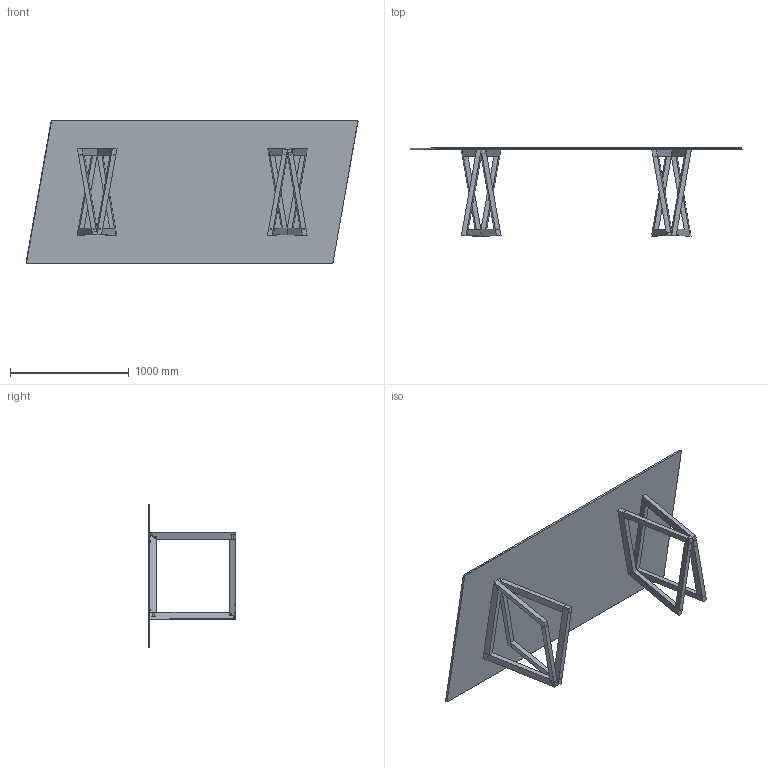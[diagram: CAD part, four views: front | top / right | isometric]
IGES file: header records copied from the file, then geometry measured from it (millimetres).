
Start section: SolidWorks IGES file using analytic representation for surfaces
Global section: file name: C:\Users\Matteo\Desktop\_Horm\Dror\_file tecnici per listino\QuaDror 02\280x120 quadror obliquo.IGS; native system: SolidWorks 2010; preprocessor: SolidWorks 2010; author: Matteo; date: 151117.120257; units: millimetre
Bounding box: 2799.23 x 741.03 x 1200 mm (x, y, z)
Surface area: 8557786.2 mm2 (no closed solid volume)
Topology: 0 solids, 0 shells, 374 faces, 7170 edges, 7170 vertices
Faces by surface type: bspline 270, revolution 104
